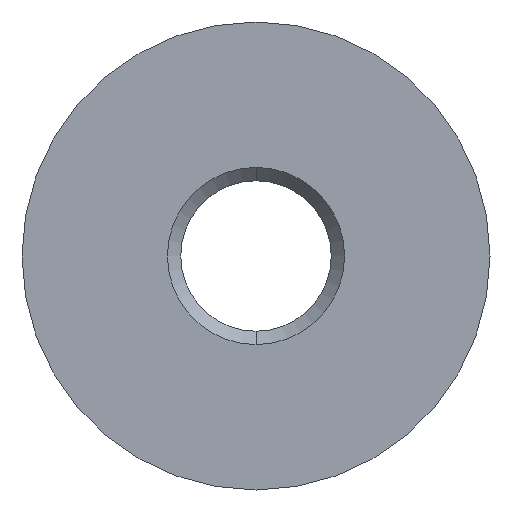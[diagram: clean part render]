
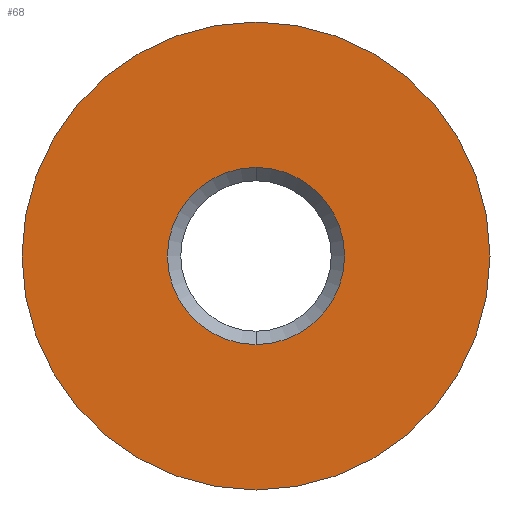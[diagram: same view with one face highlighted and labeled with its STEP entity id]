
A CAD part, front view. The second image highlights one B-rep face of the part: STEP entity #68.
In plain terms, the highlighted planar face has unit normal (0, -1, 0).
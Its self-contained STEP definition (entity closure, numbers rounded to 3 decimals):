
#4 = EDGE_CURVE ( 'NONE', #234, #226, #340, .T. ) ;
#10 = EDGE_LOOP ( 'NONE', ( #75, #347 ) ) ;
#11 = DIRECTION ( 'NONE',  ( 0., 1., 0. ) ) ;
#15 = DIRECTION ( 'NONE',  ( 0., 0., 1. ) ) ;
#20 = DIRECTION ( 'NONE',  ( 0., 0., -1. ) ) ;
#23 = CARTESIAN_POINT ( 'NONE',  ( 0., -5., 0. ) ) ;
#45 = CARTESIAN_POINT ( 'NONE',  ( 0., -5., -2.65 ) ) ;
#54 = EDGE_CURVE ( 'NONE', #104, #110, #353, .T. ) ;
#59 = DIRECTION ( 'NONE',  ( 0., 0., -1. ) ) ;
#68 = ADVANCED_FACE ( 'NONE', ( #225, #266 ), #174, .F. ) ;
#75 = ORIENTED_EDGE ( 'NONE', *, *, #84, .T. ) ;
#84 = EDGE_CURVE ( 'NONE', #226, #234, #265, .T. ) ;
#95 = AXIS2_PLACEMENT_3D ( 'NONE', #140, #11, #15 ) ;
#104 = VERTEX_POINT ( 'NONE', #133 ) ;
#110 = VERTEX_POINT ( 'NONE', #45 ) ;
#121 = AXIS2_PLACEMENT_3D ( 'NONE', #357, #349, #351 ) ;
#122 = EDGE_LOOP ( 'NONE', ( #183, #319 ) ) ;
#133 = CARTESIAN_POINT ( 'NONE',  ( 0., -5., 2.65 ) ) ;
#134 = CARTESIAN_POINT ( 'NONE',  ( 0., -5., -7. ) ) ;
#140 = CARTESIAN_POINT ( 'NONE',  ( -2.65, -5., 0. ) ) ;
#159 = CARTESIAN_POINT ( 'NONE',  ( 0., -5., 0. ) ) ;
#171 = CARTESIAN_POINT ( 'NONE',  ( 0., -5., 7. ) ) ;
#174 = PLANE ( 'NONE',  #95 ) ;
#175 = DIRECTION ( 'NONE',  ( 0., -1., 0. ) ) ;
#183 = ORIENTED_EDGE ( 'NONE', *, *, #301, .F. ) ;
#211 = CARTESIAN_POINT ( 'NONE',  ( 0., -5., 0. ) ) ;
#225 = FACE_BOUND ( 'NONE', #122, .T. ) ;
#226 = VERTEX_POINT ( 'NONE', #134 ) ;
#234 = VERTEX_POINT ( 'NONE', #171 ) ;
#250 = DIRECTION ( 'NONE',  ( 0., 0., -1. ) ) ;
#251 = DIRECTION ( 'NONE',  ( 0., -1., 0. ) ) ;
#265 = CIRCLE ( 'NONE', #358, 7. ) ;
#266 = FACE_OUTER_BOUND ( 'NONE', #10, .T. ) ;
#288 = AXIS2_PLACEMENT_3D ( 'NONE', #211, #251, #59 ) ;
#301 = EDGE_CURVE ( 'NONE', #110, #104, #389, .T. ) ;
#319 = ORIENTED_EDGE ( 'NONE', *, *, #54, .F. ) ;
#340 = CIRCLE ( 'NONE', #365, 7. ) ;
#347 = ORIENTED_EDGE ( 'NONE', *, *, #4, .T. ) ;
#349 = DIRECTION ( 'NONE',  ( 0., -1., 0. ) ) ;
#351 = DIRECTION ( 'NONE',  ( 0., 0., -1. ) ) ;
#352 = DIRECTION ( 'NONE',  ( 0., -1., 0. ) ) ;
#353 = CIRCLE ( 'NONE', #121, 2.65 ) ;
#357 = CARTESIAN_POINT ( 'NONE',  ( 0., -5., 0. ) ) ;
#358 = AXIS2_PLACEMENT_3D ( 'NONE', #159, #175, #250 ) ;
#365 = AXIS2_PLACEMENT_3D ( 'NONE', #23, #352, #20 ) ;
#389 = CIRCLE ( 'NONE', #288, 2.65 ) ;
